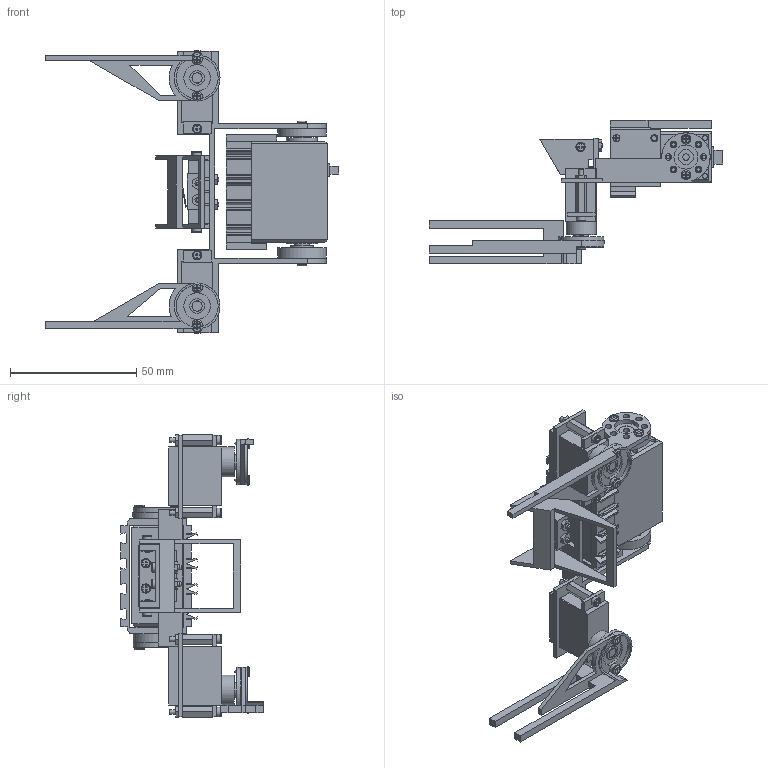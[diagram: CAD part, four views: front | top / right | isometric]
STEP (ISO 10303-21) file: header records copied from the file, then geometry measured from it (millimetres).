
FILE_DESCRIPTION(/* description */ (''),/* implementation_level */ '2;1');
FILE_NAME(/* name */ 'C:/Users/priba/Downloads/gripper-c.step',/* time_stamp */ '2022-04-12T15:19:57+02:00',/* author */ (''),/* organization */ (''),/* preprocessor_version */ 'ST-DEVELOPER v18.1',/* originating_system */ 'Autodesk Translation Framework v10.13.0.1454',/* authorisation */ '');
FILE_SCHEMA (('AUTOMOTIVE_DESIGN { 1 0 10303 214 3 1 1 }'));
Length unit declared in the file: millimetre
Products named in the file (22): gripper-c; mrm-ps-1109hb; Horn; _GripperBodyC; mrm-ps-1109hb v7(Mirror); Horn(Mirror); _mrm-spac12m2nyl; _GripperCSwitch; _SPSTSwitch; GripperCSwitchHolder; _GripperCSwitchLever; _mrm-bolt10m2nyl; mrm-bolt5m2nyl; mrm-nut-m2nyl; mrm-rd-5606hb-300HolderA; GripperJawA; _GripperJawB; mrm-rd-5606hb-300; ServoBody; TopHorn; BottomHorn; ScrewM1.7
Assembly tree (50 placements, depth 3):
  gripper-c
    mrm-ps-1109hb
      Horn
    _GripperBodyC
    mrm-ps-1109hb v7(Mirror)
      Horn(Mirror)
    _mrm-spac12m2nyl  x4
    mrm-nut-m2nyl  x6
    mrm-bolt5m2nyl  x6
    _GripperCSwitch
      _SPSTSwitch
      GripperCSwitchHolder
      _GripperCSwitchLever
      _mrm-bolt10m2nyl  x2
      mrm-nut-m2nyl  x4
      mrm-bolt5m2nyl  x2
    mrm-rd-5606hb-300HolderA
    ScrewM1.7  x10
    GripperJawA
    _GripperJawB
    mrm-rd-5606hb-300
      ServoBody
      TopHorn
      BottomHorn
Bounding box: 115.95 x 56.5 x 111.5 mm (x, y, z)
Volume: 64310.4 mm3; surface area: 40121.6 mm2
Topology: 50 solids, 50 shells, 1073 faces, 2656 edges, 1756 vertices
Faces by surface type: plane 839, cylinder 190, torus 20, cone 14, bspline 10
Full cylindrical faces by diameter (mm): 1.5 x15, 1.639 x10, 1.933 x14, 2 x39, 2.33 x2, 2.4 x10, 2.5 x23, 2.7 x4, 2.8 x10, 2.82 x1, 3.7 x10, 3.8 x10, 4 x4, 4.1 x2, 5.6 x1, 5.75 x1, 5.8 x4, 6 x2, 8.8 x1, 9.5 x2, 10.5 x2, 11.8 x2, 12.3 x2, 17.9 x2, 19.1 x1, 19.2 x1
Entity records: 19809 total; most frequent: CARTESIAN_POINT 3365, DIRECTION 3266, ORIENTED_EDGE 3162, EDGE_CURVE 1581, LINE 1268, VECTOR 1268, VERTEX_POINT 1044, AXIS2_PLACEMENT_3D 999
